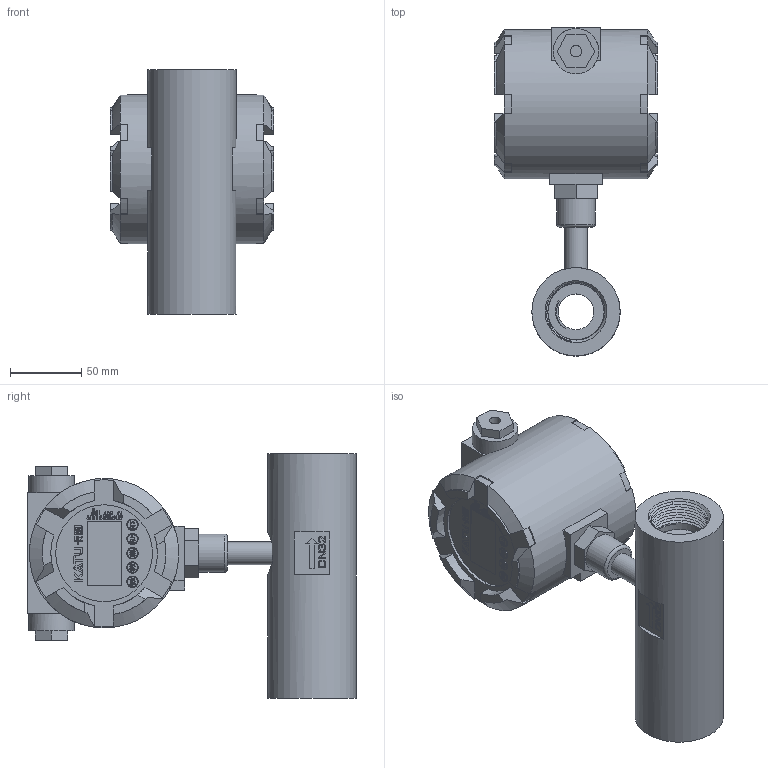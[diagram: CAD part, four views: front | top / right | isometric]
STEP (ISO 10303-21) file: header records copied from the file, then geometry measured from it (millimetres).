
FILE_DESCRIPTION( (''), '2;1');
FILE_NAME( 'QTKC_DN32_female-thread_Ex.step', '2024-10-14T14:41:31+08:00', (''), (''), '', '', '');
FILE_SCHEMA (('AUTOMOTIVE_DESIGN { 1 0 10303 214 3 1 1 1 }'));
Length unit declared in the file: millimetre
Products named in the file (1): QTKC DN32_female-thread_Ex
Bounding box: 115 x 230.5 x 172 mm (x, y, z)
Volume: 1333557.1 mm3; surface area: 139204.4 mm2
Topology: 4 solids, 4 shells, 1482 faces, 4070 edges, 2706 vertices
Faces by surface type: plane 866, extrusion 504, cylinder 71, bspline 20, cone 15, torus 6
Full cylindrical faces by diameter (mm): 3.3 x1, 8 x2, 15 x1, 16 x1, 18.5 x1, 20 x2, 25 x1, 27 x1, 32 x2, 39.5 x2, 62 x1, 68 x1, 105 x1
Entity records: 51328 total; most frequent: CARTESIAN_POINT 15967, ORIENTED_EDGE 8042, DIRECTION 5477, EDGE_CURVE 4021, VECTOR 3191, LINE 2687, VERTEX_POINT 2686, B_SPLINE_CURVE_WITH_KNOTS 1653
